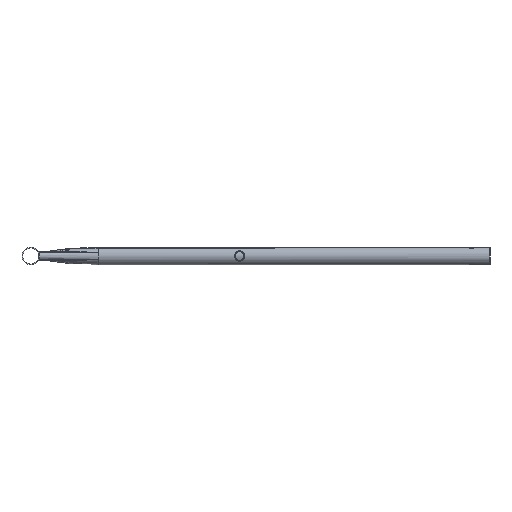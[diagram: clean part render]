
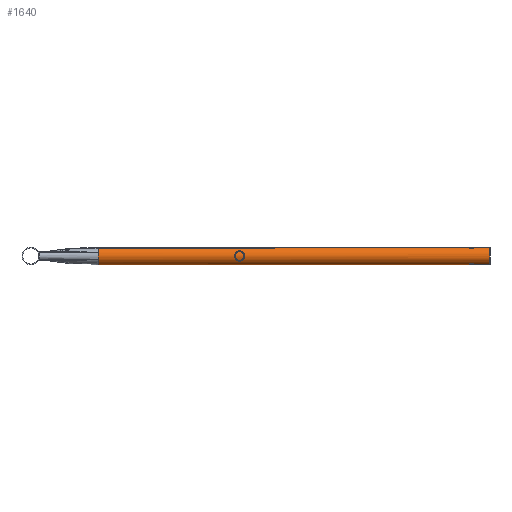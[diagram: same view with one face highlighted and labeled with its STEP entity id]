
A CAD part, left-side view. The second image highlights one B-rep face of the part: STEP entity #1640.
In plain terms, the highlighted cylindrical face has radius 21.2 mm (diameter 42.4 mm), a full revolution.
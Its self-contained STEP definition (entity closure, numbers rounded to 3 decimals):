
#280=CARTESIAN_POINT('',(5.,45.0,-20.602));
#281=VERTEX_POINT('',#280);
#282=CARTESIAN_POINT('',(5.,45.0,-20.602));
#283=CARTESIAN_POINT('',(5.,45.63,-20.602));
#284=CARTESIAN_POINT('',(4.874,46.301,-20.634));
#285=CARTESIAN_POINT('',(4.363,47.532,-20.748));
#286=CARTESIAN_POINT('',(3.978,48.093,-20.828));
#287=CARTESIAN_POINT('',(3.093,48.978,-20.978));
#288=CARTESIAN_POINT('',(2.532,49.363,-21.057));
#289=CARTESIAN_POINT('',(1.301,49.874,-21.169));
#290=CARTESIAN_POINT('',(0.63,50.,-21.2));
#291=CARTESIAN_POINT('',(-0.63,50.,-21.2));
#292=CARTESIAN_POINT('',(-1.301,49.874,-21.169));
#293=CARTESIAN_POINT('',(-2.532,49.363,-21.057));
#294=CARTESIAN_POINT('',(-3.093,48.978,-20.978));
#295=CARTESIAN_POINT('',(-3.978,48.093,-20.828));
#296=CARTESIAN_POINT('',(-4.363,47.532,-20.748));
#297=CARTESIAN_POINT('',(-4.874,46.301,-20.634));
#298=CARTESIAN_POINT('',(-5.,45.63,-20.602));
#299=CARTESIAN_POINT('',(-5.,44.37,-20.602));
#300=CARTESIAN_POINT('',(-4.874,43.699,-20.634));
#301=CARTESIAN_POINT('',(-4.363,42.468,-20.748));
#302=CARTESIAN_POINT('',(-3.978,41.907,-20.828));
#303=CARTESIAN_POINT('',(-3.093,41.022,-20.978));
#304=CARTESIAN_POINT('',(-2.532,40.637,-21.057));
#305=CARTESIAN_POINT('',(-1.301,40.126,-21.169));
#306=CARTESIAN_POINT('',(-0.63,40.,-21.2));
#307=CARTESIAN_POINT('',(0.63,40.,-21.2));
#308=CARTESIAN_POINT('',(1.301,40.126,-21.169));
#309=CARTESIAN_POINT('',(2.532,40.637,-21.057));
#310=CARTESIAN_POINT('',(3.093,41.022,-20.978));
#311=CARTESIAN_POINT('',(3.978,41.907,-20.828));
#312=CARTESIAN_POINT('',(4.363,42.468,-20.748));
#313=CARTESIAN_POINT('',(4.874,43.699,-20.634));
#314=CARTESIAN_POINT('',(5.,44.37,-20.602));
#315=CARTESIAN_POINT('',(5.,45.0,-20.602));
#316=B_SPLINE_CURVE_WITH_KNOTS('',3,(#282,#283,#284,#285,#286,#287,#288,#289,#290,#291,#292,#293,#294,#295,#296,#297,#298,#299,#300,#301,#302,#303,#304,#305,#306,#307,#308,#309,#310,#311,#312,#313,#314,#315),.UNSPECIFIED.,.T.,.U.,(4,2,2,2,2,2,2,2,2,2,2,2,2,2,2,2,4),(0.0,0.189,0.378,0.567,0.756,0.946,1.135,1.324,1.513,1.702,1.891,2.08,2.269,2.458,2.648,2.837,3.026),.UNSPECIFIED.);
#317=EDGE_CURVE('',#281,#281,#316,.T.);
#409=CARTESIAN_POINT('',(5.,45.,20.602));
#410=VERTEX_POINT('',#409);
#411=CARTESIAN_POINT('',(5.,45.,20.602));
#412=CARTESIAN_POINT('',(5.,44.37,20.602));
#413=CARTESIAN_POINT('',(4.874,43.699,20.634));
#414=CARTESIAN_POINT('',(4.363,42.468,20.748));
#415=CARTESIAN_POINT('',(3.978,41.907,20.828));
#416=CARTESIAN_POINT('',(3.093,41.022,20.978));
#417=CARTESIAN_POINT('',(2.532,40.637,21.057));
#418=CARTESIAN_POINT('',(1.301,40.126,21.169));
#419=CARTESIAN_POINT('',(0.63,40.,21.2));
#420=CARTESIAN_POINT('',(-0.63,40.,21.2));
#421=CARTESIAN_POINT('',(-1.301,40.126,21.169));
#422=CARTESIAN_POINT('',(-2.532,40.637,21.057));
#423=CARTESIAN_POINT('',(-3.093,41.022,20.978));
#424=CARTESIAN_POINT('',(-3.978,41.907,20.828));
#425=CARTESIAN_POINT('',(-4.363,42.468,20.748));
#426=CARTESIAN_POINT('',(-4.874,43.699,20.634));
#427=CARTESIAN_POINT('',(-5.,44.37,20.602));
#428=CARTESIAN_POINT('',(-5.,45.63,20.602));
#429=CARTESIAN_POINT('',(-4.874,46.301,20.634));
#430=CARTESIAN_POINT('',(-4.363,47.532,20.748));
#431=CARTESIAN_POINT('',(-3.978,48.093,20.828));
#432=CARTESIAN_POINT('',(-3.093,48.978,20.978));
#433=CARTESIAN_POINT('',(-2.532,49.363,21.057));
#434=CARTESIAN_POINT('',(-1.301,49.874,21.169));
#435=CARTESIAN_POINT('',(-0.63,50.,21.2));
#436=CARTESIAN_POINT('',(0.63,50.,21.2));
#437=CARTESIAN_POINT('',(1.301,49.874,21.169));
#438=CARTESIAN_POINT('',(2.532,49.363,21.057));
#439=CARTESIAN_POINT('',(3.093,48.978,20.978));
#440=CARTESIAN_POINT('',(3.978,48.093,20.828));
#441=CARTESIAN_POINT('',(4.363,47.532,20.748));
#442=CARTESIAN_POINT('',(4.874,46.301,20.634));
#443=CARTESIAN_POINT('',(5.,45.63,20.602));
#444=CARTESIAN_POINT('',(5.,45.0,20.602));
#445=B_SPLINE_CURVE_WITH_KNOTS('',3,(#411,#412,#413,#414,#415,#416,#417,#418,#419,#420,#421,#422,#423,#424,#425,#426,#427,#428,#429,#430,#431,#432,#433,#434,#435,#436,#437,#438,#439,#440,#441,#442,#443,#444),.UNSPECIFIED.,.T.,.U.,(4,2,2,2,2,2,2,2,2,2,2,2,2,2,2,2,4),(0.0,0.189,0.378,0.567,0.756,0.946,1.135,1.324,1.513,1.702,1.891,2.08,2.269,2.458,2.648,2.837,3.026),.UNSPECIFIED.);
#446=EDGE_CURVE('',#410,#410,#445,.T.);
#1316=CARTESIAN_POINT('',(18.962,938.8,-9.481));
#1317=VERTEX_POINT('',#1316);
#1325=CARTESIAN_POINT('',(18.533,938.8,-10.294));
#1326=VERTEX_POINT('',#1325);
#1327=CARTESIAN_POINT('',(0.0,938.8,0.0));
#1328=DIRECTION('',(0.0,-1.0,0.0));
#1329=DIRECTION('',(1.0,0.0,0.0));
#1330=AXIS2_PLACEMENT_3D('',#1327,#1328,#1329);
#1331=CIRCLE('',#1330,21.2);
#1332=EDGE_CURVE('',#1326,#1317,#1331,.T.);
#1334=CARTESIAN_POINT('',(-18.533,938.8,-10.294));
#1335=VERTEX_POINT('',#1334);
#1336=CARTESIAN_POINT('',(0.0,938.8,0.0));
#1337=DIRECTION('',(0.0,-1.0,0.0));
#1338=DIRECTION('',(1.0,0.0,0.0));
#1339=AXIS2_PLACEMENT_3D('',#1336,#1337,#1338);
#1340=CIRCLE('',#1339,21.2);
#1341=EDGE_CURVE('',#1335,#1326,#1340,.T.);
#1343=CARTESIAN_POINT('',(-18.962,938.8,-9.481));
#1344=VERTEX_POINT('',#1343);
#1345=CARTESIAN_POINT('',(0.0,938.8,0.0));
#1346=DIRECTION('',(0.0,-1.0,0.0));
#1347=DIRECTION('',(1.0,0.0,0.0));
#1348=AXIS2_PLACEMENT_3D('',#1345,#1346,#1347);
#1349=CIRCLE('',#1348,21.2);
#1350=EDGE_CURVE('',#1344,#1335,#1349,.T.);
#1407=CARTESIAN_POINT('',(18.962,938.8,9.481));
#1408=VERTEX_POINT('',#1407);
#1416=CARTESIAN_POINT('',(0.0,938.8,0.0));
#1417=DIRECTION('',(0.0,-1.0,0.0));
#1418=DIRECTION('',(1.0,0.0,0.0));
#1419=AXIS2_PLACEMENT_3D('',#1416,#1417,#1418);
#1420=CIRCLE('',#1419,21.2);
#1421=EDGE_CURVE('',#1317,#1408,#1420,.T.);
#1469=CARTESIAN_POINT('',(-18.962,938.8,9.481));
#1470=VERTEX_POINT('',#1469);
#1478=CARTESIAN_POINT('',(-18.533,938.8,10.294));
#1479=VERTEX_POINT('',#1478);
#1480=CARTESIAN_POINT('',(0.0,938.8,0.0));
#1481=DIRECTION('',(0.0,-1.0,0.0));
#1482=DIRECTION('',(1.0,0.0,0.0));
#1483=AXIS2_PLACEMENT_3D('',#1480,#1481,#1482);
#1484=CIRCLE('',#1483,21.2);
#1485=EDGE_CURVE('',#1479,#1470,#1484,.T.);
#1487=CARTESIAN_POINT('',(18.533,938.8,10.294));
#1488=VERTEX_POINT('',#1487);
#1489=CARTESIAN_POINT('',(0.0,938.8,0.0));
#1490=DIRECTION('',(0.0,-1.0,0.0));
#1491=DIRECTION('',(1.0,0.0,0.0));
#1492=AXIS2_PLACEMENT_3D('',#1489,#1490,#1491);
#1493=CIRCLE('',#1492,21.2);
#1494=EDGE_CURVE('',#1488,#1479,#1493,.T.);
#1496=CARTESIAN_POINT('',(0.0,938.8,0.0));
#1497=DIRECTION('',(0.0,-1.0,0.0));
#1498=DIRECTION('',(1.0,0.0,0.0));
#1499=AXIS2_PLACEMENT_3D('',#1496,#1497,#1498);
#1500=CIRCLE('',#1499,21.2);
#1501=EDGE_CURVE('',#1408,#1488,#1500,.T.);
#1553=CARTESIAN_POINT('',(-21.2,938.8,0.));
#1554=VERTEX_POINT('',#1553);
#1555=CARTESIAN_POINT('',(0.0,938.8,0.0));
#1556=DIRECTION('',(0.0,-1.0,0.0));
#1557=DIRECTION('',(1.0,0.0,0.0));
#1558=AXIS2_PLACEMENT_3D('',#1555,#1556,#1557);
#1559=CIRCLE('',#1558,21.2);
#1560=EDGE_CURVE('',#1554,#1344,#1559,.T.);
#1562=CARTESIAN_POINT('',(0.0,938.8,0.0));
#1563=DIRECTION('',(0.0,-1.0,0.0));
#1564=DIRECTION('',(1.0,0.0,0.0));
#1565=AXIS2_PLACEMENT_3D('',#1562,#1563,#1564);
#1566=CIRCLE('',#1565,21.2);
#1567=EDGE_CURVE('',#1470,#1554,#1566,.T.);
#1607=CARTESIAN_POINT('',(0.0,0.0,0.0));
#1608=DIRECTION('',(0.0,1.0,0.0));
#1609=DIRECTION('',(1.0,0.0,0.0));
#1610=AXIS2_PLACEMENT_3D('',#1607,#1608,#1609);
#1611=CYLINDRICAL_SURFACE('',#1610,21.2);
#1612=ORIENTED_EDGE('',*,*,#1560,.T.);
#1613=ORIENTED_EDGE('',*,*,#1350,.T.);
#1614=ORIENTED_EDGE('',*,*,#1341,.T.);
#1615=ORIENTED_EDGE('',*,*,#1332,.T.);
#1616=ORIENTED_EDGE('',*,*,#1421,.T.);
#1617=ORIENTED_EDGE('',*,*,#1501,.T.);
#1618=ORIENTED_EDGE('',*,*,#1494,.T.);
#1619=ORIENTED_EDGE('',*,*,#1485,.T.);
#1620=ORIENTED_EDGE('',*,*,#1567,.T.);
#1621=EDGE_LOOP('',(#1612,#1613,#1614,#1615,#1616,#1617,#1618,#1619,#1620));
#1622=FACE_OUTER_BOUND('',#1621,.T.);
#1623=ORIENTED_EDGE('',*,*,#446,.T.);
#1624=EDGE_LOOP('',(#1623));
#1625=FACE_BOUND('',#1624,.T.);
#1626=ORIENTED_EDGE('',*,*,#317,.T.);
#1627=EDGE_LOOP('',(#1626));
#1628=FACE_BOUND('',#1627,.T.);
#1629=CARTESIAN_POINT('',(-21.2,0.0,0.));
#1630=VERTEX_POINT('',#1629);
#1631=CARTESIAN_POINT('',(0.0,0.0,0.0));
#1632=DIRECTION('',(0.0,-1.0,0.0));
#1633=DIRECTION('',(1.0,0.0,0.0));
#1634=AXIS2_PLACEMENT_3D('',#1631,#1632,#1633);
#1635=CIRCLE('',#1634,21.2);
#1636=EDGE_CURVE('',#1630,#1630,#1635,.T.);
#1637=ORIENTED_EDGE('',*,*,#1636,.F.);
#1638=EDGE_LOOP('',(#1637));
#1639=FACE_BOUND('',#1638,.T.);
#1640=ADVANCED_FACE('',(#1622,#1625,#1628,#1639),#1611,.T.);
